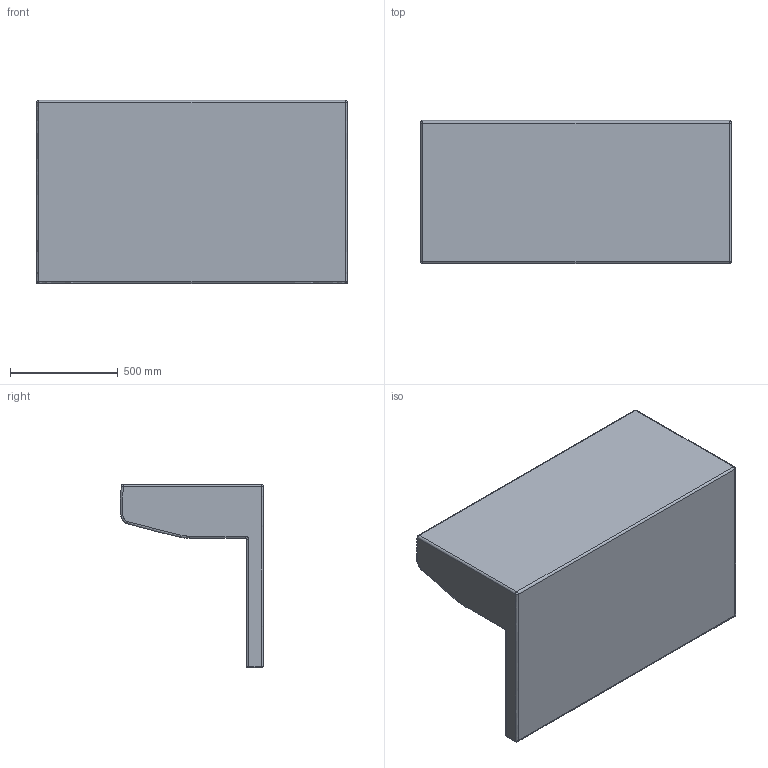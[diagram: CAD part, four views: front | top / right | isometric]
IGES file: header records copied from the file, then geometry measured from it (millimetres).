
Start section: SolidWorks IGES file using NURBS representation for surfaces
Global section: file name: D:\VICCARBE\PRODUCTOS\19-MASS\04-MODELADOS (PLANOS)\SOLIDWORKS\PIEZAS\Backs\01-IGES\VICCARBE_Back_144.IGS; native system: SolidWorks 2009; preprocessor: SolidWorks 2009; author: RUBEN; date: 110908.155137; units: millimetre
Bounding box: 1440 x 664.95 x 850 mm (x, y, z)
Surface area: 4602501.3 mm2 (no closed solid volume)
Topology: 0 solids, 0 shells, 44 faces, 296 edges, 290 vertices
Faces by surface type: bspline 44
